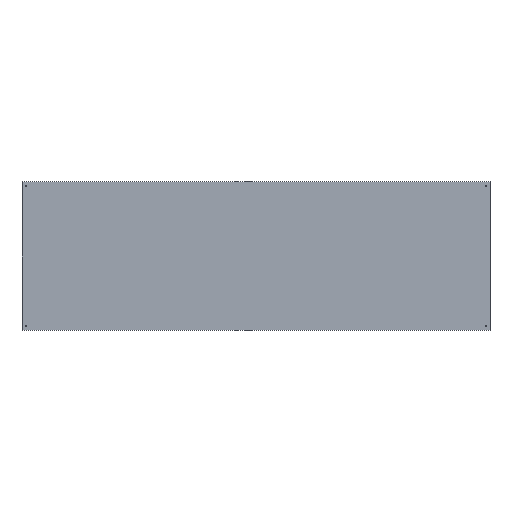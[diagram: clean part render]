
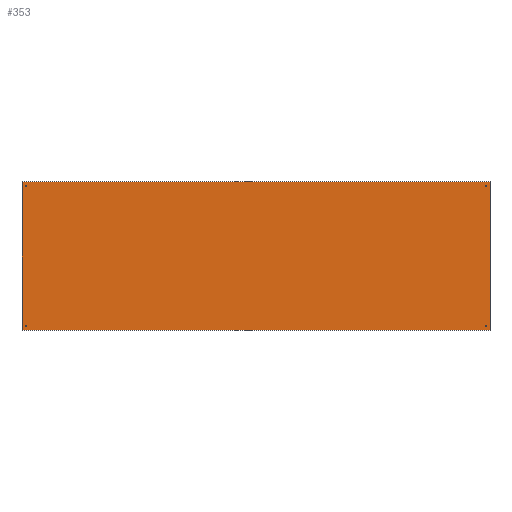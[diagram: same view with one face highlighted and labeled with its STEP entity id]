
A CAD part, top view. The second image highlights one B-rep face of the part: STEP entity #353.
In plain terms, the highlighted planar face has unit normal (0, 0, 1).
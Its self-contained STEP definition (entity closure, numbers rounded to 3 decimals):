
#30=FACE_BOUND('',#82,.T.);
#31=FACE_BOUND('',#83,.T.);
#32=FACE_BOUND('',#84,.T.);
#33=FACE_BOUND('',#85,.T.);
#42=CIRCLE('',#383,5.);
#43=CIRCLE('',#384,5.);
#44=CIRCLE('',#385,5.);
#45=CIRCLE('',#386,5.);
#46=CIRCLE('',#387,5.);
#47=CIRCLE('',#388,5.);
#48=CIRCLE('',#389,5.);
#49=CIRCLE('',#390,5.);
#59=FACE_OUTER_BOUND('',#81,.T.);
#81=EDGE_LOOP('',(#290,#291,#292,#293));
#82=EDGE_LOOP('',(#294,#295));
#83=EDGE_LOOP('',(#296,#297));
#84=EDGE_LOOP('',(#298,#299));
#85=EDGE_LOOP('',(#300,#301));
#101=LINE('',#524,#133);
#103=LINE('',#530,#135);
#110=LINE('',#543,#142);
#117=LINE('',#572,#149);
#133=VECTOR('',#413,304.8);
#135=VECTOR('',#417,304.8);
#142=VECTOR('',#426,304.8);
#149=VECTOR('',#461,304.8);
#158=VERTEX_POINT('',#509);
#165=VERTEX_POINT('',#522);
#167=VERTEX_POINT('',#527);
#168=VERTEX_POINT('',#529);
#182=VERTEX_POINT('',#574);
#183=VERTEX_POINT('',#575);
#184=VERTEX_POINT('',#578);
#185=VERTEX_POINT('',#579);
#186=VERTEX_POINT('',#582);
#187=VERTEX_POINT('',#583);
#188=VERTEX_POINT('',#586);
#189=VERTEX_POINT('',#587);
#197=EDGE_CURVE('',#165,#158,#101,.T.);
#199=EDGE_CURVE('',#167,#168,#103,.T.);
#206=EDGE_CURVE('',#158,#167,#110,.T.);
#221=EDGE_CURVE('',#168,#165,#117,.T.);
#222=EDGE_CURVE('',#182,#183,#42,.T.);
#223=EDGE_CURVE('',#183,#182,#43,.T.);
#224=EDGE_CURVE('',#184,#185,#44,.T.);
#225=EDGE_CURVE('',#185,#184,#45,.T.);
#226=EDGE_CURVE('',#186,#187,#46,.T.);
#227=EDGE_CURVE('',#187,#186,#47,.T.);
#228=EDGE_CURVE('',#188,#189,#48,.T.);
#229=EDGE_CURVE('',#189,#188,#49,.T.);
#290=ORIENTED_EDGE('',*,*,#197,.F.);
#291=ORIENTED_EDGE('',*,*,#221,.F.);
#292=ORIENTED_EDGE('',*,*,#199,.F.);
#293=ORIENTED_EDGE('',*,*,#206,.F.);
#294=ORIENTED_EDGE('',*,*,#222,.T.);
#295=ORIENTED_EDGE('',*,*,#223,.T.);
#296=ORIENTED_EDGE('',*,*,#224,.T.);
#297=ORIENTED_EDGE('',*,*,#225,.T.);
#298=ORIENTED_EDGE('',*,*,#226,.T.);
#299=ORIENTED_EDGE('',*,*,#227,.T.);
#300=ORIENTED_EDGE('',*,*,#228,.T.);
#301=ORIENTED_EDGE('',*,*,#229,.T.);
#343=PLANE('',#382);
#353=ADVANCED_FACE('',(#59,#30,#31,#32,#33),#343,.T.);
#382=AXIS2_PLACEMENT_3D('',#573,#462,#463);
#383=AXIS2_PLACEMENT_3D('',#576,#464,#465);
#384=AXIS2_PLACEMENT_3D('',#577,#466,#467);
#385=AXIS2_PLACEMENT_3D('',#580,#468,#469);
#386=AXIS2_PLACEMENT_3D('',#581,#470,#471);
#387=AXIS2_PLACEMENT_3D('',#584,#472,#473);
#388=AXIS2_PLACEMENT_3D('',#585,#474,#475);
#389=AXIS2_PLACEMENT_3D('',#588,#476,#477);
#390=AXIS2_PLACEMENT_3D('',#589,#478,#479);
#413=DIRECTION('',(0.,-1.,0.));
#417=DIRECTION('',(0.,1.,0.));
#426=DIRECTION('',(-1.,0.,0.));
#461=DIRECTION('',(1.,0.,0.));
#462=DIRECTION('center_axis',(0.,0.,1.));
#463=DIRECTION('ref_axis',(-1.,0.,0.));
#464=DIRECTION('center_axis',(0.,0.,-1.));
#465=DIRECTION('ref_axis',(1.,0.,0.));
#466=DIRECTION('center_axis',(0.,0.,-1.));
#467=DIRECTION('ref_axis',(1.,0.,0.));
#468=DIRECTION('center_axis',(0.,0.,-1.));
#469=DIRECTION('ref_axis',(1.,0.,0.));
#470=DIRECTION('center_axis',(0.,0.,-1.));
#471=DIRECTION('ref_axis',(1.,0.,0.));
#472=DIRECTION('center_axis',(0.,0.,-1.));
#473=DIRECTION('ref_axis',(1.,0.,0.));
#474=DIRECTION('center_axis',(0.,0.,-1.));
#475=DIRECTION('ref_axis',(1.,0.,0.));
#476=DIRECTION('center_axis',(0.,0.,-1.));
#477=DIRECTION('ref_axis',(1.,0.,0.));
#478=DIRECTION('center_axis',(0.,0.,-1.));
#479=DIRECTION('ref_axis',(1.,0.,0.));
#509=CARTESIAN_POINT('',(3000.,-475.,1.5));
#522=CARTESIAN_POINT('',(3000.,475.,1.5));
#524=CARTESIAN_POINT('',(3000.,475.,1.5));
#527=CARTESIAN_POINT('',(0.,-475.,1.5));
#529=CARTESIAN_POINT('',(0.,475.,1.5));
#530=CARTESIAN_POINT('',(0.,-475.,1.5));
#543=CARTESIAN_POINT('',(3000.,-475.,1.5));
#572=CARTESIAN_POINT('',(3000.,475.,1.5));
#573=CARTESIAN_POINT('Origin',(3000.,475.,1.5));
#574=CARTESIAN_POINT('',(30.,448.5,1.5));
#575=CARTESIAN_POINT('',(20.,448.5,1.5));
#576=CARTESIAN_POINT('Origin',(25.,448.5,1.5));
#577=CARTESIAN_POINT('Origin',(25.,448.5,1.5));
#578=CARTESIAN_POINT('',(30.,-448.5,1.5));
#579=CARTESIAN_POINT('',(20.,-448.5,1.5));
#580=CARTESIAN_POINT('Origin',(25.,-448.5,1.5));
#581=CARTESIAN_POINT('Origin',(25.,-448.5,1.5));
#582=CARTESIAN_POINT('',(2980.,448.5,1.5));
#583=CARTESIAN_POINT('',(2970.,448.5,1.5));
#584=CARTESIAN_POINT('Origin',(2975.,448.5,1.5));
#585=CARTESIAN_POINT('Origin',(2975.,448.5,1.5));
#586=CARTESIAN_POINT('',(2980.,-448.5,1.5));
#587=CARTESIAN_POINT('',(2970.,-448.5,1.5));
#588=CARTESIAN_POINT('Origin',(2975.,-448.5,1.5));
#589=CARTESIAN_POINT('Origin',(2975.,-448.5,1.5));
